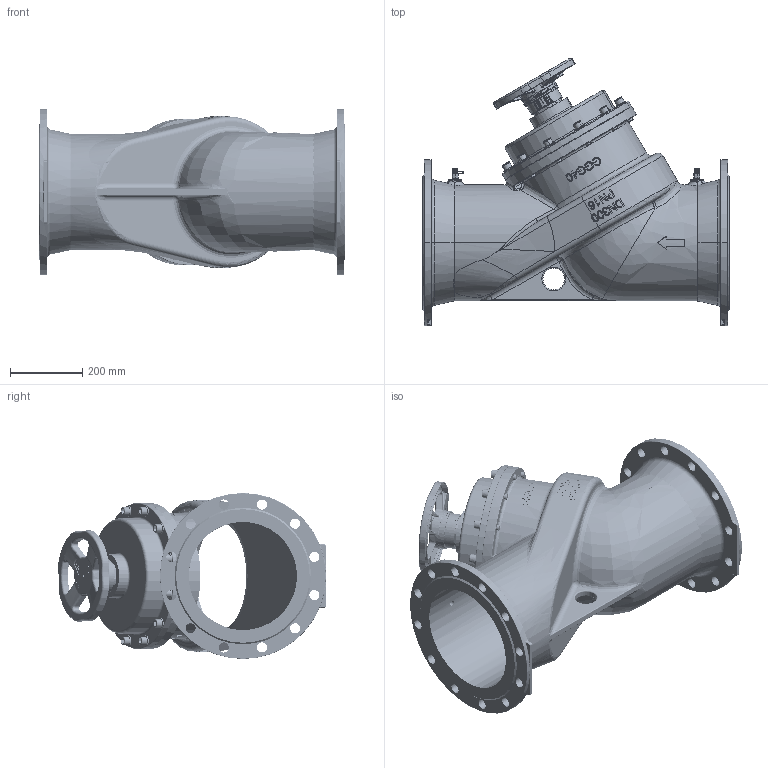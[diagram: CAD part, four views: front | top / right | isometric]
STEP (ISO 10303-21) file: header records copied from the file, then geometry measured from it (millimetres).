
FILE_DESCRIPTION (( 'STEP AP203' ), '1' );
FILE_NAME ('DN300平衡阀装配体.STEP', '2024-03-29T07:36:32', ( 'MicroSoft' ), ( 'MicroSoft' ), 'SwSTEP 2.0', 'SolidWorks 2024', '' );
FILE_SCHEMA (( 'CONFIG_CONTROL_DESIGN' ));
Length unit declared in the file: millimetre
Products named in the file (15): M0030DN300阀盖; M0030DN300阀体; 修改HW260-02双副本-数字居中; hexagon socket head cap screws gb1_GB_FASTENER_SCREWS_HSHCS M16X55-N; TEST  NOZZLE; HW260-06; HW260-03; DN300平衡阀装配体; 修改HW260-00-双副本; 零件1; HW254-HXG32-08; HW254--05-去除圆角; HW260-01A; plain washers--product grade c gb_GB_FASTENER_WASHER_SMWC 16; M0030DN300阀轴压块
Assembly tree (37 placements, depth 3):
  DN300平衡阀装配体
    M0030DN300阀盖
    M0030DN300阀体
    M0030DN300阀轴压块
    plain washers--product grade c gb_GB_FASTENER_WASHER_SMWC 16  x12
    hexagon socket head cap screws gb1_GB_FASTENER_SCREWS_HSHCS M16X55-N  x12
    TEST  NOZZLE  x2
    修改HW260-00-双副本
      HW260-01A
      HW260-03
      修改HW260-02双副本-数字居中
      HW260-06
      零件1
      HW254-HXG32-08
      HW254--05-去除圆角
Bounding box: 850 x 741.94 x 460 mm (x, y, z)
Volume: 22686389.7 mm3; surface area: 3567341.9 mm2
Topology: 51 solids, 51 shells, 6814 faces, 16940 edges, 10485 vertices
Faces by surface type: plane 2492, cylinder 1670, bspline 1517, torus 839, cone 154, sphere 142
Entity records: 353250 total; most frequent: CARTESIAN_POINT 213912, ORIENTED_EDGE 30656, DIRECTION 25393, EDGE_CURVE 15328, VERTEX_POINT 9592, AXIS2_PLACEMENT_3D 9494, EDGE_LOOP 6778, LINE 6405
